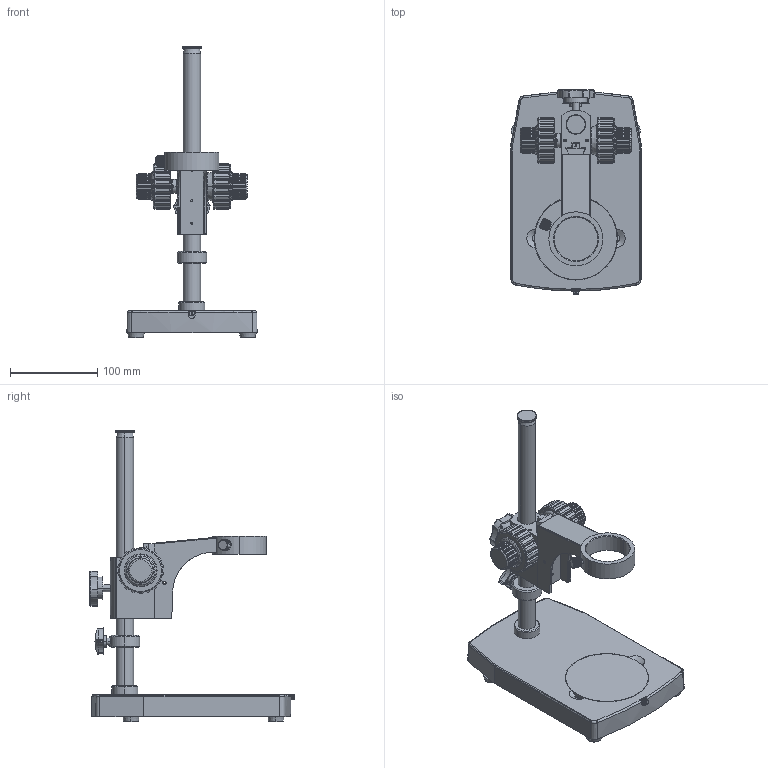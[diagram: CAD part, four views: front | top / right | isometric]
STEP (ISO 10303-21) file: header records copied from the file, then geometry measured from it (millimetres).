
FILE_DESCRIPTION(('STEP AP214'),'1');
FILE_NAME('GR-STD6.stp','2022-09-27T05:45:37',(' '),(' '),'Spatial InterOp 3D',' ',' ');
FILE_SCHEMA(('AUTOMOTIVE_DESIGN { 1 0 10303 214 1 1 1 1 }'));
Length unit declared in the file: metre
Products named in the file (7): GR-STD6; Component1; Component2; Component3; Component4; Component5; Component6
Assembly tree (6 placements, depth 2):
  GR-STD6
    Component1
    Component2
    Component3
    Component4
    Component5
    Component6
Bounding box: 149 x 234.56 x 334 mm (x, y, z)
Volume: 583359.4 mm3; surface area: 236944.5 mm2
Topology: 8 solids, 13 shells, 4323 faces, 11125 edges, 6964 vertices
Faces by surface type: plane 2464, cylinder 1535, bspline 120, cone 98, torus 94, sphere 8, extrusion 4
Entity records: 188209 total; most frequent: CARTESIAN_POINT 80906, DIRECTION 23202, ORIENTED_EDGE 22242, EDGE_CURVE 11121, AXIS2_PLACEMENT_3D 8635, VERTEX_POINT 6964, VECTOR 5932, LINE 5928
